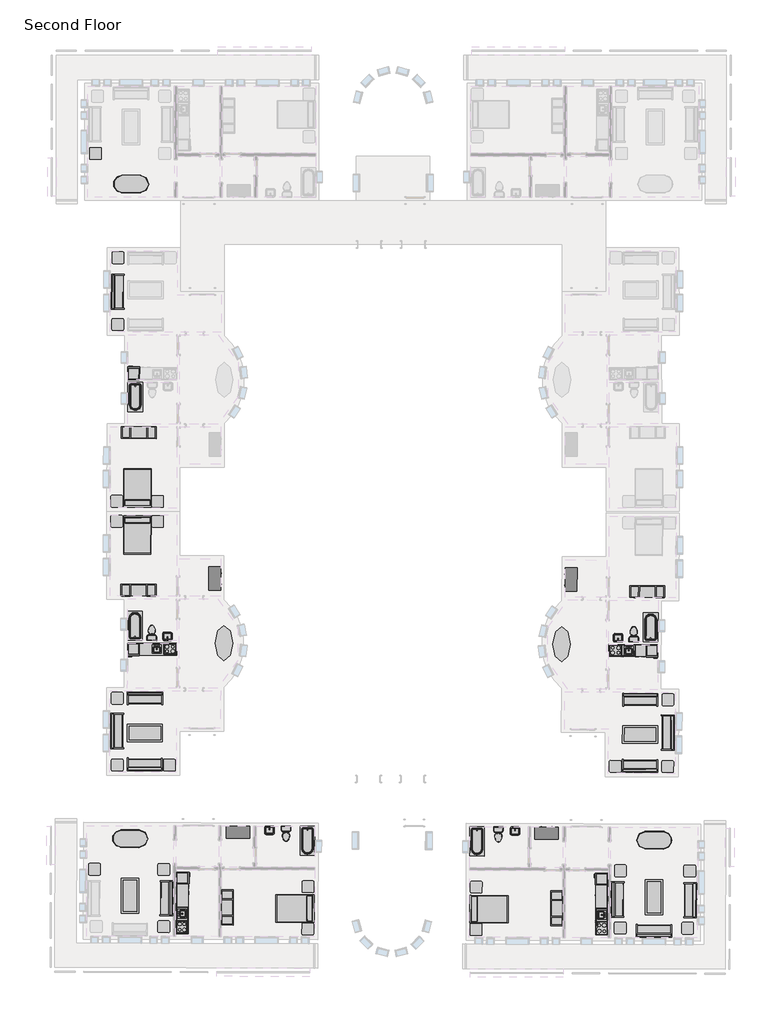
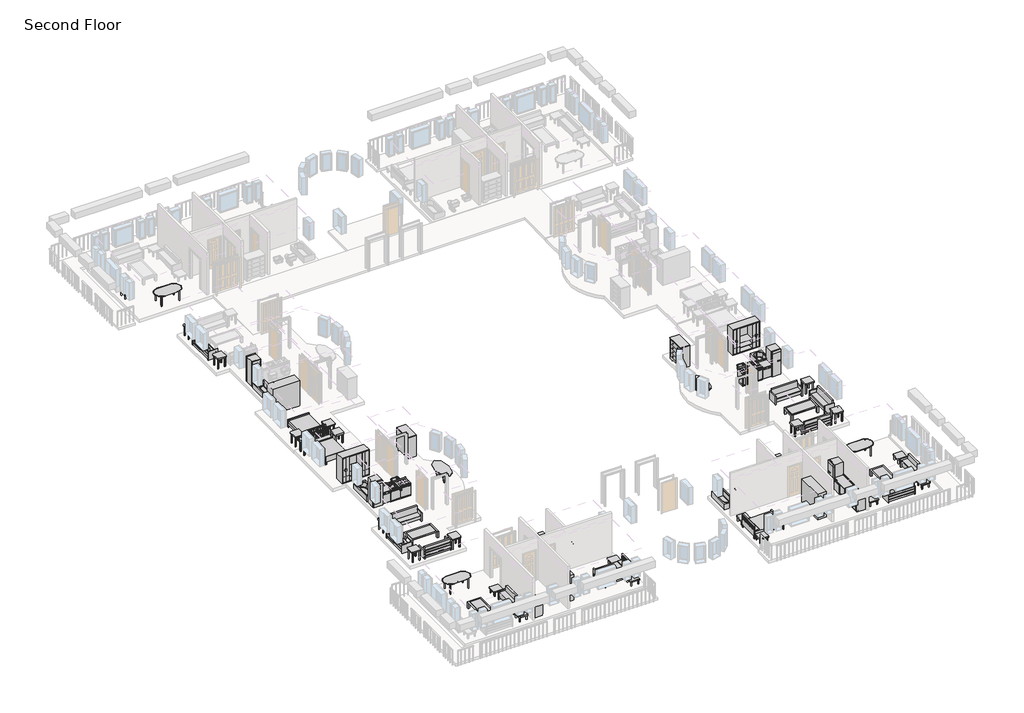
# One storey, part 7 of 8: 61 furniture elements, 17 flow terminals, 17 proxies.
"""IFC4 building model written with IfcOpenShell, lengths in millimetres."""

from ifc_helpers import new_model, si_unit, origin, place, context, project, spatial, transform, mapped, element, save
from components import m_cook_top_4_unit2_0615_x_500mm_249f3515, m_cook_top_4_unit2_0615_x_500mm_c91639ce, m_dishwasher_610_x_610_x_875mm_54ecfc4c, m_dishwasher_610_x_610_x_875mm_75336c20, m_kitchenette_medium_1372mm_e05c6bec, m_kitchenette_medium_1372mm_39f1532f, m_refrigerator_600_x_660mm_a466bf94, m_refrigerator_600_x_660mm_0a899b9c, m_sink_kitchen_island_450_x_450mm_f969cf2d, m_sink_kitchen_island_450_x_450mm_f6c2c534, m_sink_vanity_square_500_x_440mm_1e229b74, m_sink_vanity_square_500_x_440mm_f3cfe680, m_toilet_domestic_3d_m_toilet_domestic_3d_5cb52bd4, m_toilet_domestic_3d_m_toilet_domestic_3d_183bbd19, m_toilet_domestic_3d_m_toilet_domestic_3d_43425dfb, m_toilet_domestic_3d_m_toilet_domestic_3d_5530cc89, m_tub_rectangular_3d_m_tub_rectangular_3d_3a981ad5, m_tub_rectangular_3d_m_tub_rectangular_3d_c2020133, m_bed_shaker_1422_x_1981mm_double_096e7f55, m_bed_shaker_1422_x_1981mm_double_097b173b, m_counter_top_w_sink_hole_600mm_depth_1fb56bb9, m_counter_top_w_sink_hole_600mm_depth_08c4f679, m_counter_top_w_sink_hole_600mm_depth_60928b92, m_counter_top_w_sink_hole_600mm_depth_7e9aa94d, m_dresser_1220_x_1525_x_0610mm_18e1f140, m_dresser_1220_x_1525_x_0610mm_4e5de046, m_entertainment_center_1830_x_1830_x_0610mm_f77a9b93, m_entertainment_center_1830_x_1830_x_0610mm_4f6058a0, m_sofa_1830mm_58d08fc1, m_sofa_1830mm_3da2e71b, m_sofa1_1830mm_f9e8a66b, m_sofa1_1830mm_493d6964, m_table_coffee_0915_x_1830_x_0457mm_134cd960, m_table_coffee_0915_x_1830_x_0457mm_595c1ebd, m_table_dining_oval_0915_x_1830mm_a7cfbe21, m_table_dining_oval_0915_x_1830mm_ad8305c5, m_table_ellipse_1800_x_900mm_fd46d5a5, m_table_ellipse_1800_x_900mm_f7269293, m_table_end_cb6ea12e, m_table_end_aa2764bc, m_table_end_0610_x_0160mm_e0e5b28f, m_table_end_0610_x_0160mm_ccef8dc9

model = new_model("IFC4")

# Units and contexts
model_context = context("Model", 3, world=origin())
ifc_project = project(units=[si_unit("LENGTHUNIT", "METRE", prefix="MILLI")], contexts=[model_context])

# Site, building, storey
site = spatial("IfcSite", under=ifc_project)
building = spatial("IfcBuilding", under=site)
storey = spatial("IfcBuildingStorey", under=building, Name="Second Floor", Elevation=3048.0)

# Proxies
placement = place(None, origin())
m_cook_top_4_unit2_0615_x_500mm_shape = m_cook_top_4_unit2_0615_x_500mm_249f3515(model_context)
element("IfcBuildingElementProxy", 1, Name="M_Cook Top-4 Unit2 : 0615 x 500mm", ObjectType="M_Cook Top-4 Unit2 : 0615 x 500mm", at=placement, inside=storey, context=model_context, shape_type="MappedRepresentation", body=[
    mapped(m_cook_top_4_unit2_0615_x_500mm_shape, transform((-7404.4223325, -26881.3653639, 3048.0), x_axis=(0.9999905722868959, -0.004342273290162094, 0.0), y_axis=(0.004342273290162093, 0.9999905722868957, 0.0), z_axis=(0.0, 0.0, 0.9999999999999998))),
])
element("IfcBuildingElementProxy", 2, Name="M_Cook Top-4 Unit2 : 0615 x 500mm", ObjectType="M_Cook Top-4 Unit2 : 0615 x 500mm", at=placement, inside=storey, context=model_context, shape_type="MappedRepresentation", body=[
    mapped(m_cook_top_4_unit2_0615_x_500mm_shape, transform((-29921.672142, -41252.4695151, 3048.0), x_axis=(0.0028948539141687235, 0.9999958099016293, 0.0), y_axis=(-0.9999958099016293, 0.0028948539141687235, 0.0), z_axis=(0.0, 0.0, 1.0))),
])
m_cook_top_4_unit2_0615_x_500mm_2_shape = m_cook_top_4_unit2_0615_x_500mm_c91639ce(model_context)
element("IfcBuildingElementProxy", 3, Name="M_Cook Top-4 Unit2 : 0615 x 500mm", ObjectType="M_Cook Top-4 Unit2 : 0615 x 500mm", at=placement, inside=storey, context=model_context, shape_type="MappedRepresentation", body=[
    mapped(m_cook_top_4_unit2_0615_x_500mm_2_shape, transform((-8117.5635037, -41315.5894888, 3048.0), x_axis=(0.0028948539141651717, 0.9999958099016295, 0.0), y_axis=(-0.9999958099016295, 0.0028948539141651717, 0.0), z_axis=(0.0, 0.0, 1.0))),
])
element("IfcBuildingElementProxy", 4, Name="M_Cook Top-4 Unit2 : 0615 x 500mm", ObjectType="M_Cook Top-4 Unit2 : 0615 x 500mm", at=placement, inside=storey, context=model_context, shape_type="MappedRepresentation", body=[
    mapped(m_cook_top_4_unit2_0615_x_500mm_2_shape, transform((-30551.2317704, -26814.3584512, 3048.0), x_axis=(-0.9999989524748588, 0.0014474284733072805, 0.0), y_axis=(-0.0014474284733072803, -0.9999989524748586, 0.0), z_axis=(0.0, 0.0, 0.9999999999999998))),
])
m_dishwasher_610_x_610_x_875mm_shape = m_dishwasher_610_x_610_x_875mm_54ecfc4c(model_context)
element("IfcBuildingElementProxy", 5, Name="M_Dishwasher : 610 x 610 x 875mm", ObjectType="M_Dishwasher : 610 x 610 x 875mm", at=placement, inside=storey, context=model_context, shape_type="MappedRepresentation", body=[
    mapped(m_dishwasher_610_x_610_x_875mm_shape, transform((-6490.1062972, -27151.9876901, 3048.0), x_axis=(0.9999905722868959, -0.004342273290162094, 0.0), y_axis=(0.004342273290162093, 0.9999905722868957, 0.0), z_axis=(0.0, 0.0, 0.9999999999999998))),
])
element("IfcBuildingElementProxy", 6, Name="M_Dishwasher : 610 x 610 x 875mm", ObjectType="M_Dishwasher : 610 x 610 x 875mm", at=placement, inside=storey, context=model_context, shape_type="MappedRepresentation", body=[
    mapped(m_dishwasher_610_x_610_x_875mm_shape, transform((-29650.5063255, -39692.7654337, 3048.0), x_axis=(0.0028948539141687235, 0.9999958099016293, 0.0), y_axis=(-0.9999958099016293, 0.0028948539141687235, 0.0), z_axis=(0.0, 0.0, 1.0))),
])
m_dishwasher_610_x_610_x_875mm_2_shape = m_dishwasher_610_x_610_x_875mm_75336c20(model_context)
element("IfcBuildingElementProxy", 7, Name="M_Dishwasher : 610 x 610 x 875mm", ObjectType="M_Dishwasher : 610 x 610 x 875mm", at=placement, inside=storey, context=model_context, shape_type="MappedRepresentation", body=[
    mapped(m_dishwasher_610_x_610_x_875mm_2_shape, transform((-8379.6945822, -39754.3415843, 3048.0), x_axis=(0.0028948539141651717, 0.9999958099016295, 0.0), y_axis=(-0.9999958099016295, 0.0028948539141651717, 0.0), z_axis=(0.0, 0.0, 1.0))),
])
element("IfcBuildingElementProxy", 8, Name="M_Dishwasher : 610 x 610 x 875mm", ObjectType="M_Dishwasher : 610 x 610 x 875mm", at=placement, inside=storey, context=model_context, shape_type="MappedRepresentation", body=[
    mapped(m_dishwasher_610_x_610_x_875mm_2_shape, transform((-31467.0992991, -27079.6826412, 3048.0), x_axis=(-0.9999989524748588, 0.0014474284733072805, 0.0), y_axis=(-0.0014474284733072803, -0.9999989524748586, 0.0), z_axis=(0.0, 0.0, 0.9999999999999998))),
])
m_kitchenette_medium_1372mm_shape = m_kitchenette_medium_1372mm_e05c6bec(model_context)
element("IfcBuildingElementProxy", 9, Name="M_Kitchenette - Medium : 1372mm", ObjectType="M_Kitchenette - Medium : 1372mm", at=placement, inside=storey, context=model_context, shape_type="MappedRepresentation", body=[
    mapped(m_kitchenette_medium_1372mm_shape, transform((-30225.732172, -40927.3256482, 3048.0), x_axis=(0.0028948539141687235, 0.9999958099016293, 0.0), y_axis=(-0.9999958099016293, 0.0028948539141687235, 0.0), z_axis=(0.0, 0.0, 1.0))),
])
m_kitchenette_medium_1372mm_2_shape = m_kitchenette_medium_1372mm_39f1532f(model_context)
element("IfcBuildingElementProxy", 10, Name="M_Kitchenette - Medium : 1372mm", ObjectType="M_Kitchenette - Medium : 1372mm", at=placement, inside=storey, context=model_context, shape_type="MappedRepresentation", body=[
    mapped(m_kitchenette_medium_1372mm_2_shape, transform((-7811.6260897, -40992.2114828, 3048.0), x_axis=(0.0028948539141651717, 0.9999958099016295, 0.0), y_axis=(-0.9999958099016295, 0.0028948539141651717, 0.0), z_axis=(0.0, 0.0, 1.0))),
])
element("IfcBuildingElementProxy", 11, Name="M_Kitchenette - Medium1 : 1372mm 2", ObjectType="M_Kitchenette - Medium1 : 1372mm 2", at=placement, inside=storey, context=model_context, shape_type="MappedRepresentation", body=[
    mapped(m_kitchenette_medium_1372mm_shape, transform((-7078.8387011, -26577.7762748, 3048.0), x_axis=(0.9999905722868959, -0.004342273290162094, 0.0), y_axis=(0.004342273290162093, 0.9999905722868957, 0.0), z_axis=(0.0, 0.0, 0.9999999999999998))),
])
element("IfcBuildingElementProxy", 12, Name="M_Kitchenette - Medium1 : 1372mm 2", ObjectType="M_Kitchenette - Medium1 : 1372mm 2", at=placement, inside=storey, context=model_context, shape_type="MappedRepresentation", body=[
    mapped(m_kitchenette_medium_1372mm_2_shape, transform((-30875.0522602, -26508.8894242, 3048.0), x_axis=(-0.9999989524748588, 0.0014474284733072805, 0.0), y_axis=(-0.0014474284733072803, -0.9999989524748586, 0.0), z_axis=(0.0, 0.0, 0.9999999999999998))),
])
m_refrigerator_600_x_660mm_shape = m_refrigerator_600_x_660mm_a466bf94(model_context)
element("IfcBuildingElementProxy", 13, Name="M_Refrigerator : 600 x 660mm", ObjectType="M_Refrigerator : 600 x 660mm", at=placement, inside=storey, context=model_context, shape_type="MappedRepresentation", body=[
    mapped(m_refrigerator_600_x_660mm_shape, transform((-32487.3566416, -12528.1259936, 3048.0), x_axis=(-0.9999989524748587, 0.0014474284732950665, 0.0), y_axis=(-0.0014474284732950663, -0.9999989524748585, 0.0), z_axis=(0.0, 0.0, 0.9999999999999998))),
])
element("IfcBuildingElementProxy", 14, Name="M_Refrigerator : 600 x 660mm", ObjectType="M_Refrigerator : 600 x 660mm", at=placement, inside=storey, context=model_context, shape_type="MappedRepresentation", body=[
    mapped(m_refrigerator_600_x_660mm_shape, transform((-5447.6014915, -26881.0775022, 3048.0), x_axis=(0.9999905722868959, -0.004342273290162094, 0.0), y_axis=(0.004342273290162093, 0.9999905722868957, 0.0), z_axis=(0.0, 0.0, 0.9999999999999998))),
])
element("IfcBuildingElementProxy", 15, Name="M_Refrigerator : 600 x 660mm", ObjectType="M_Refrigerator : 600 x 660mm", at=placement, inside=storey, context=model_context, shape_type="MappedRepresentation", body=[
    mapped(m_refrigerator_600_x_660mm_shape, transform((-29922.9251807, -38650.6538432, 3048.0), x_axis=(0.0028948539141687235, 0.9999958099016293, 0.0), y_axis=(-0.9999958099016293, 0.0028948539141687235, 0.0), z_axis=(0.0, 0.0, 1.0))),
])
m_refrigerator_600_x_660mm_2_shape = m_refrigerator_600_x_660mm_0a899b9c(model_context)
element("IfcBuildingElementProxy", 16, Name="M_Refrigerator : 600 x 660mm", ObjectType="M_Refrigerator : 600 x 660mm", at=placement, inside=storey, context=model_context, shape_type="MappedRepresentation", body=[
    mapped(m_refrigerator_600_x_660mm_2_shape, transform((-8101.2467965, -38713.824679, 3048.0), x_axis=(0.0028948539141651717, 0.9999958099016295, 0.0), y_axis=(-0.9999958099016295, 0.0028948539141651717, 0.0), z_axis=(0.0, 0.0, 1.0))),
])
element("IfcBuildingElementProxy", 17, Name="M_Refrigerator : 600 x 660mm", ObjectType="M_Refrigerator : 600 x 660mm", at=placement, inside=storey, context=model_context, shape_type="MappedRepresentation", body=[
    mapped(m_refrigerator_600_x_660mm_2_shape, transform((-32508.0181478, -26802.7412209, 3048.0), x_axis=(-0.9999989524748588, 0.0014474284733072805, 0.0), y_axis=(-0.0014474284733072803, -0.9999989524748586, 0.0), z_axis=(0.0, 0.0, 0.9999999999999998))),
])

# Flow terminals
m_sink_kitchen_island_450_x_450mm_shape = m_sink_kitchen_island_450_x_450mm_f969cf2d(model_context)
element("IfcFlowTerminal", 18, ObjectType="M_Sink Kitchen-Island : 450 x 450mm", at=placement, inside=storey, context=model_context, shape_type="MappedRepresentation", body=[
    mapped(m_sink_kitchen_island_450_x_450mm_shape, transform((-6734.1280769, -26886.6214154, 3048.0), x_axis=(0.9999905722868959, -0.004342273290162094, 0.0), y_axis=(0.004342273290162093, 0.9999905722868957, 0.0), z_axis=(0.0, 0.0, 0.9999999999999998))),
])
element("IfcFlowTerminal", 19, ObjectType="M_Sink Kitchen-Island : 450 x 450mm", at=placement, inside=storey, context=model_context, shape_type="MappedRepresentation", body=[
    mapped(m_sink_kitchen_island_450_x_450mm_shape, transform((-29917.3862989, -40582.1683539, 3048.0), x_axis=(0.0028948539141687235, 0.9999958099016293, 0.0), y_axis=(-0.9999958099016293, 0.0028948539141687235, 0.0), z_axis=(0.0, 0.0, 1.0))),
])
m_sink_kitchen_island_450_x_450mm_2_shape = m_sink_kitchen_island_450_x_450mm_f6c2c534(model_context)
element("IfcFlowTerminal", 20, ObjectType="M_Sink Kitchen-Island : 450 x 450mm", at=placement, inside=storey, context=model_context, shape_type="MappedRepresentation", body=[
    mapped(m_sink_kitchen_island_450_x_450mm_2_shape, transform((-8117.9684433, -40645.2747484, 3048.0), x_axis=(0.0028948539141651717, 0.9999958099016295, 0.0), y_axis=(-0.9999958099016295, 0.0028948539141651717, 0.0), z_axis=(0.0, 0.0, 1.0))),
])
element("IfcFlowTerminal", 21, ObjectType="M_Sink Kitchen-Island : 450 x 450mm", at=placement, inside=storey, context=model_context, shape_type="MappedRepresentation", body=[
    mapped(m_sink_kitchen_island_450_x_450mm_2_shape, transform((-31221.5452225, -26815.733623, 3048.0), x_axis=(-0.9999989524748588, 0.0014474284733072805, 0.0), y_axis=(-0.0014474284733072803, -0.9999989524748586, 0.0), z_axis=(0.0, 0.0, 0.9999999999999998))),
])
m_sink_vanity_square_500_x_440mm_shape = m_sink_vanity_square_500_x_440mm_1e229b74(model_context)
element("IfcFlowTerminal", 22, ObjectType="M_Sink Vanity-Square : 500 x 440mm", at=placement, inside=storey, context=model_context, shape_type="MappedRepresentation", body=[
    mapped(m_sink_vanity_square_500_x_440mm_shape, transform((-7255.849628, -26269.4593372, 3048.0), x_axis=(-0.9999905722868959, 0.00434227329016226, 0.0), y_axis=(-0.0043422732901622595, -0.9999905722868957, 0.0), z_axis=(0.0, 0.0, 0.9999999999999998))),
])
element("IfcFlowTerminal", 23, ObjectType="M_Sink Vanity-Square : 500 x 440mm", at=placement, inside=storey, context=model_context, shape_type="MappedRepresentation", body=[
    mapped(m_sink_vanity_square_500_x_440mm_shape, transform((-25398.4470959, -36193.3769715, 3048.0), x_axis=(0.9999958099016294, -0.0028948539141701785, 0.0), y_axis=(0.0028948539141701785, 0.9999958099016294, 0.0), z_axis=(0.0, 0.0, 1.0))),
])
m_sink_vanity_square_500_x_440mm_2_shape = m_sink_vanity_square_500_x_440mm_f3cfe680(model_context)
element("IfcFlowTerminal", 24, ObjectType="M_Sink Vanity-Square : 500 x 440mm", at=placement, inside=storey, context=model_context, shape_type="MappedRepresentation", body=[
    mapped(m_sink_vanity_square_500_x_440mm_2_shape, transform((-12611.4221939, -36230.3936957, 3048.0), x_axis=(-0.9999958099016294, 0.002894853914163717, 0.0), y_axis=(-0.002894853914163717, -0.9999958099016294, 0.0), z_axis=(0.0, 0.0, 1.0))),
])
element("IfcFlowTerminal", 25, ObjectType="M_Sink Vanity-Square : 500 x 440mm", at=placement, inside=storey, context=model_context, shape_type="MappedRepresentation", body=[
    mapped(m_sink_vanity_square_500_x_440mm_2_shape, transform((-30696.2592425, -26201.6024913, 3048.0), x_axis=(0.9999989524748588, -0.001447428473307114, 0.0), y_axis=(0.0014474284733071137, 0.9999989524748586, 0.0), z_axis=(0.0, 0.0, 0.9999999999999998))),
])
m_toilet_domestic_3d_m_toilet_domestic_3d_shape = m_toilet_domestic_3d_m_toilet_domestic_3d_5cb52bd4(model_context)
m_toilet_domestic_3d_m_toilet_domestic_3d_2_shape = m_toilet_domestic_3d_m_toilet_domestic_3d_183bbd19(model_context)
element("IfcFlowTerminal", 26, ObjectType="M_Toilet-Domestic-3D : M_Toilet-Domestic-3D", at=placement, inside=storey, context=model_context, shape_type="MappedRepresentation", body=[
    mapped(m_toilet_domestic_3d_m_toilet_domestic_3d_shape, transform((-24522.1713775, -36508.8406097, 3048.0), x_axis=(0.9999958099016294, -0.00289485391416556, 0.0), y_axis=(0.00289485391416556, 0.9999958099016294, 0.0), z_axis=(0.0, 0.0, 1.0))),
    mapped(m_toilet_domestic_3d_m_toilet_domestic_3d_2_shape, transform((-24522.1713775, -36508.8406097, 3048.0), x_axis=(0.9999958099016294, -0.00289485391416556, 0.0), y_axis=(0.00289485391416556, 0.9999958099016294, 0.0), z_axis=(0.0, 0.0, 1.0))),
])
m_toilet_domestic_3d_m_toilet_domestic_3d_3_shape = m_toilet_domestic_3d_m_toilet_domestic_3d_43425dfb(model_context)
m_toilet_domestic_3d_m_toilet_domestic_3d_4_shape = m_toilet_domestic_3d_m_toilet_domestic_3d_5530cc89(model_context)
element("IfcFlowTerminal", 27, ObjectType="M_Toilet-Domestic-3D : M_Toilet-Domestic-3D", at=placement, inside=storey, context=model_context, shape_type="MappedRepresentation", body=[
    mapped(m_toilet_domestic_3d_m_toilet_domestic_3d_3_shape, transform((-13489.5096603, -36540.7786875, 3048.0), x_axis=(-0.9999958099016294, 0.002894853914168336, 0.0), y_axis=(-0.002894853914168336, -0.9999958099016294, 0.0), z_axis=(0.0, 0.0, 1.0))),
    mapped(m_toilet_domestic_3d_m_toilet_domestic_3d_4_shape, transform((-13489.5096603, -36540.7786875, 3048.0), x_axis=(-0.9999958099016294, 0.002894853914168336, 0.0), y_axis=(-0.002894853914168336, -0.9999958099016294, 0.0), z_axis=(0.0, 0.0, 1.0))),
])
element("IfcFlowTerminal", 28, ObjectType="M_Toilet-Domestic-3D1 : M_Toilet-Domestic-3D", at=placement, inside=storey, context=model_context, shape_type="MappedRepresentation", body=[
    mapped(m_toilet_domestic_3d_m_toilet_domestic_3d_shape, transform((-6457.2243201, -25950.2735511, 3048.0), x_axis=(-0.9999905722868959, 0.00434227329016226, 0.0), y_axis=(-0.0043422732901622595, -0.9999905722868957, 0.0), z_axis=(0.0, 0.0, 0.9999999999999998))),
    mapped(m_toilet_domestic_3d_m_toilet_domestic_3d_2_shape, transform((-6457.2243201, -25950.2735511, 3048.0), x_axis=(-0.9999905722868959, 0.00434227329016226, 0.0), y_axis=(-0.0043422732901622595, -0.9999905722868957, 0.0), z_axis=(0.0, 0.0, 0.9999999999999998))),
])
element("IfcFlowTerminal", 29, ObjectType="M_Toilet-Domestic-3D1 : M_Toilet-Domestic-3D", at=placement, inside=storey, context=model_context, shape_type="MappedRepresentation", body=[
    mapped(m_toilet_domestic_3d_m_toilet_domestic_3d_3_shape, transform((-31493.0231805, -25877.7982671, 3048.0), x_axis=(0.9999989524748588, -0.001447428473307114, 0.0), y_axis=(0.0014474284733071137, 0.9999989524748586, 0.0), z_axis=(0.0, 0.0, 0.9999999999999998))),
    mapped(m_toilet_domestic_3d_m_toilet_domestic_3d_4_shape, transform((-31493.0231805, -25877.7982671, 3048.0), x_axis=(0.9999989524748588, -0.001447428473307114, 0.0), y_axis=(0.0014474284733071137, 0.9999989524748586, 0.0), z_axis=(0.0, 0.0, 0.9999999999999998))),
])
m_tub_rectangular_3d_m_tub_rectangular_3d_shape = m_tub_rectangular_3d_m_tub_rectangular_3d_3a981ad5(model_context)
element("IfcFlowTerminal", 30, ObjectType="M_Tub-Rectangular-3D : M_Tub-Rectangular-3D", at=placement, inside=storey, context=model_context, shape_type="MappedRepresentation", body=[
    mapped(m_tub_rectangular_3d_m_tub_rectangular_3d_shape, transform((-22854.3573612, -37129.57823, 3048.0), x_axis=(-0.0028948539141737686, -0.9999958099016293, 0.0), y_axis=(0.9999958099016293, -0.0028948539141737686, 0.0), z_axis=(0.0, 0.0, 1.0))),
])
element("IfcFlowTerminal", 31, ObjectType="M_Tub-Rectangular-3D : M_Tub-Rectangular-3D", at=placement, inside=storey, context=model_context, shape_type="MappedRepresentation", body=[
    mapped(m_tub_rectangular_3d_m_tub_rectangular_3d_shape, transform((-32926.5841692, -25259.8157014, 3048.0), x_axis=(0.0014474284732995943, 0.9999989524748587, 0.0), y_axis=(-0.9999989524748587, 0.0014474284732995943, 0.0), z_axis=(0.0, 0.0, 1.0))),
])
m_tub_rectangular_3d_m_tub_rectangular_3d_2_shape = m_tub_rectangular_3d_m_tub_rectangular_3d_c2020133(model_context)
element("IfcFlowTerminal", 32, ObjectType="M_Tub-Rectangular-3D : M_Tub-Rectangular-3D", at=placement, inside=storey, context=model_context, shape_type="MappedRepresentation", body=[
    mapped(m_tub_rectangular_3d_m_tub_rectangular_3d_2_shape, transform((-32910.3874532, -14069.8333606, 3048.0), x_axis=(-0.0014474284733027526, -0.9999989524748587, 0.0), y_axis=(0.9999989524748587, -0.0014474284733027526, 0.0), z_axis=(0.0, 0.0, 1.0))),
])
element("IfcFlowTerminal", 33, ObjectType="M_Tub-Rectangular-3D : M_Tub-Rectangular-3D", at=placement, inside=storey, context=model_context, shape_type="MappedRepresentation", body=[
    mapped(m_tub_rectangular_3d_m_tub_rectangular_3d_2_shape, transform((-15160.8895978, -37151.8497886, 3048.0), x_axis=(-0.0028948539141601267, -0.9999958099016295, 0.0), y_axis=(0.9999958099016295, -0.0028948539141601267, 0.0), z_axis=(0.0, 0.0, 1.0))),
])
element("IfcFlowTerminal", 34, ObjectType="M_Tub-Rectangular-3D : M_Tub-Rectangular-3D", at=placement, inside=storey, context=model_context, shape_type="MappedRepresentation", body=[
    mapped(m_tub_rectangular_3d_m_tub_rectangular_3d_2_shape, transform((-5020.1094348, -25340.6012075, 3048.0), x_axis=(0.004342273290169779, 0.9999905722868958, 0.0), y_axis=(-0.9999905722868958, 0.004342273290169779, 0.0), z_axis=(0.0, 0.0, 1.0))),
])

# Furniture
m_bed_shaker_1422_x_1981mm_double_shape = m_bed_shaker_1422_x_1981mm_double_096e7f55(model_context)
element("IfcFurniture", 35, ObjectType="M_Bed-Shaker : 1422 x 1981mm - Double", at=placement, inside=storey, context=model_context, shape_type="MappedRepresentation", body=[
    mapped(m_bed_shaker_1422_x_1981mm_double_shape, transform((-32265.3963493, -19430.7695861, 3048.0), x_axis=(-0.9999989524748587, 0.0014474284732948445, 0.0), y_axis=(-0.0014474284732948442, -0.9999989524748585, 0.0), z_axis=(0.0, 0.0, 0.9999999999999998))),
])
element("IfcFurniture", 36, ObjectType="M_Bed-Shaker : 1422 x 1981mm - Double", at=placement, inside=storey, context=model_context, shape_type="MappedRepresentation", body=[
    mapped(m_bed_shaker_1422_x_1981mm_double_shape, transform((-23068.6004859, -40322.2184362, 3048.0), x_axis=(-0.002894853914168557, -0.9999958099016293, 0.0), y_axis=(0.9999958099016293, -0.002894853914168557, 0.0), z_axis=(0.0, 0.0, 1.0))),
])
m_bed_shaker_1422_x_1981mm_double_2_shape = m_bed_shaker_1422_x_1981mm_double_097b173b(model_context)
element("IfcFurniture", 37, ObjectType="M_Bed-Shaker : 1422 x 1981mm - Double", at=placement, inside=storey, context=model_context, shape_type="MappedRepresentation", body=[
    mapped(m_bed_shaker_1422_x_1981mm_double_2_shape, transform((-14965.1344404, -40345.6768849, 3048.0), x_axis=(-0.0028948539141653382, -0.9999958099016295, 0.0), y_axis=(0.9999958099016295, -0.0028948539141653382, 0.0), z_axis=(0.0, 0.0, 1.0))),
])
element("IfcFurniture", 38, ObjectType="M_Bed-Shaker : 1422 x 1981mm - Double", at=placement, inside=storey, context=model_context, shape_type="MappedRepresentation", body=[
    mapped(m_bed_shaker_1422_x_1981mm_double_2_shape, transform((-32266.0766407, -19900.7690938, 3048.0), x_axis=(-0.9999989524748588, 0.0014474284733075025, 0.0), y_axis=(-0.0014474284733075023, -0.9999989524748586, 0.0), z_axis=(0.0, 0.0, 0.9999999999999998))),
])
m_counter_top_w_sink_hole_600mm_depth_shape = m_counter_top_w_sink_hole_600mm_depth_1fb56bb9(model_context)
element("IfcFurniture", 39, ObjectType="M_Counter Top w Sink Hole : 600mm Depth", at=placement, inside=storey, context=model_context, shape_type="MappedRepresentation", body=[
    mapped(m_counter_top_w_sink_hole_600mm_depth_shape, transform((-30224.1886359, -40394.1278824, 3048.0), x_axis=(0.0028948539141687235, 0.9999958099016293, 0.0), y_axis=(-0.9999958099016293, 0.0028948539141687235, 0.0), z_axis=(0.0, 0.0, 1.0))),
])
m_counter_top_w_sink_hole_600mm_depth_2_shape = m_counter_top_w_sink_hole_600mm_depth_08c4f679(model_context)
element("IfcFurniture", 40, ObjectType="M_Counter Top w Sink Hole : 600mm Depth", at=placement, inside=storey, context=model_context, shape_type="MappedRepresentation", body=[
    mapped(m_counter_top_w_sink_hole_600mm_depth_2_shape, transform((-6545.643728, -26580.0915749, 3048.0), x_axis=(0.9999905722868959, -0.004342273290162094, 0.0), y_axis=(0.004342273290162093, 0.9999905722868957, 0.0), z_axis=(0.0, 0.0, 0.9999999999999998))),
])
m_counter_top_w_sink_hole_600mm_depth_3_shape = m_counter_top_w_sink_hole_600mm_depth_60928b92(model_context)
element("IfcFurniture", 41, ObjectType="M_Counter Top w Sink Hole : 600mm Depth", at=placement, inside=storey, context=model_context, shape_type="MappedRepresentation", body=[
    mapped(m_counter_top_w_sink_hole_600mm_depth_3_shape, transform((-31408.2517016, -26508.1176554, 3048.0), x_axis=(-0.9999989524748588, 0.0014474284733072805, 0.0), y_axis=(-0.0014474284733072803, -0.9999989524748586, 0.0), z_axis=(0.0, 0.0, 0.9999999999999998))),
])
m_counter_top_w_sink_hole_600mm_depth_4_shape = m_counter_top_w_sink_hole_600mm_depth_7e9aa94d(model_context)
element("IfcFurniture", 42, ObjectType="M_Counter Top w Sink Hole : 600mm Depth", at=placement, inside=storey, context=model_context, shape_type="MappedRepresentation", body=[
    mapped(m_counter_top_w_sink_hole_600mm_depth_4_shape, transform((-7810.0825536, -40459.013717, 3048.0), x_axis=(0.0028948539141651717, 0.9999958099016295, 0.0), y_axis=(-0.9999958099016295, 0.0028948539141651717, 0.0), z_axis=(0.0, 0.0, 1.0))),
])
m_dresser_1220_x_1525_x_0610mm_shape = m_dresser_1220_x_1525_x_0610mm_18e1f140(model_context)
element("IfcFurniture", 43, ObjectType="M_Dresser : 1220 x 1525 x 0610mm", at=placement, inside=storey, context=model_context, shape_type="MappedRepresentation", body=[
    mapped(m_dresser_1220_x_1525_x_0610mm_shape, transform((-9350.5209907, -23482.9760924, 3048.0), x_axis=(-0.004342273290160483, -0.9999905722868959, 0.0), y_axis=(0.9999905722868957, -0.004342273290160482, 0.0), z_axis=(0.0, 0.0, 0.9999999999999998))),
])
element("IfcFurniture", 44, ObjectType="M_Dresser : 1220 x 1525 x 0610mm", at=placement, inside=storey, context=model_context, shape_type="MappedRepresentation", body=[
    mapped(m_dresser_1220_x_1525_x_0610mm_shape, transform((-27295.820683, -36698.2790207, 3048.0), x_axis=(-0.9999958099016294, 0.0028948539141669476, 0.0), y_axis=(-0.0028948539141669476, -0.9999958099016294, 0.0), z_axis=(0.0, 0.0, 1.0))),
])
m_dresser_1220_x_1525_x_0610mm_2_shape = m_dresser_1220_x_1525_x_0610mm_4e5de046(model_context)
element("IfcFurniture", 45, ObjectType="M_Dresser : 1220 x 1525 x 0610mm", at=placement, inside=storey, context=model_context, shape_type="MappedRepresentation", body=[
    mapped(m_dresser_1220_x_1525_x_0610mm_2_shape, transform((-10717.0036305, -36746.2724752, 3048.0), x_axis=(0.9999958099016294, -0.002894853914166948, 0.0), y_axis=(0.002894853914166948, 0.9999958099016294, 0.0), z_axis=(0.0, 0.0, 1.0))),
])
element("IfcFurniture", 46, ObjectType="M_Dresser : 1220 x 1525 x 0610mm", at=placement, inside=storey, context=model_context, shape_type="MappedRepresentation", body=[
    mapped(m_dresser_1220_x_1525_x_0610mm_2_shape, transform((-28585.490131, -23427.2934334, 3048.0), x_axis=(-0.0014474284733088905, -0.9999989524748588, 0.0), y_axis=(0.9999989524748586, -0.0014474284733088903, 0.0), z_axis=(0.0, 0.0, 0.9999999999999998))),
])
m_entertainment_center_1830_x_1830_x_0610mm_shape = m_entertainment_center_1830_x_1830_x_0610mm_f77a9b93(model_context)
element("IfcFurniture", 47, ObjectType="M_Entertainment center : 1830 x 1830 x 0610mm", at=placement, inside=storey, context=model_context, shape_type="MappedRepresentation", body=[
    mapped(m_entertainment_center_1830_x_1830_x_0610mm_shape, transform((-32173.151944, -15980.2994888, 3048.0), x_axis=(-0.9999989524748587, 0.0014474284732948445, 0.0), y_axis=(-0.0014474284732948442, -0.9999989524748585, 0.0), z_axis=(0.0, 0.0, 0.9999999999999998))),
])
element("IfcFurniture", 48, ObjectType="M_Entertainment center : 1830 x 1830 x 0610mm", at=placement, inside=storey, context=model_context, shape_type="MappedRepresentation", body=[
    mapped(m_entertainment_center_1830_x_1830_x_0610mm_shape, transform((-5751.8113346, -23428.0088952, 3048.0), x_axis=(0.9999905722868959, -0.004342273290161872, 0.0), y_axis=(0.004342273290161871, 0.9999905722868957, 0.0), z_axis=(0.0, 0.0, 0.9999999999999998))),
])
element("IfcFurniture", 49, ObjectType="M_Entertainment center : 1830 x 1830 x 0610mm", at=placement, inside=storey, context=model_context, shape_type="MappedRepresentation", body=[
    mapped(m_entertainment_center_1830_x_1830_x_0610mm_shape, transform((-27155.4724705, -40237.537184, 3048.0), x_axis=(-0.0028948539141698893, -0.9999958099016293, 0.0), y_axis=(0.9999958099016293, -0.0028948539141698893, 0.0), z_axis=(0.0, 0.0, 1.0))),
])
m_entertainment_center_1830_x_1830_x_0610mm_2_shape = m_entertainment_center_1830_x_1830_x_0610mm_4f6058a0(model_context)
element("IfcFurniture", 50, ObjectType="M_Entertainment center : 1830 x 1830 x 0610mm", at=placement, inside=storey, context=model_context, shape_type="MappedRepresentation", body=[
    mapped(m_entertainment_center_1830_x_1830_x_0610mm_2_shape, transform((-10877.8406756, -40284.6587476, 3048.0), x_axis=(-0.002894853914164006, -0.9999958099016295, 0.0), y_axis=(0.9999958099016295, -0.002894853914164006, 0.0), z_axis=(0.0, 0.0, 1.0))),
])
element("IfcFurniture", 51, ObjectType="M_Entertainment center : 1830 x 1830 x 0610mm", at=placement, inside=storey, context=model_context, shape_type="MappedRepresentation", body=[
    mapped(m_entertainment_center_1830_x_1830_x_0610mm_2_shape, transform((-32183.8212288, -23351.4917673, 3048.0), x_axis=(-0.9999989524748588, 0.0014474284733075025, 0.0), y_axis=(-0.0014474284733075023, -0.9999989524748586, 0.0), z_axis=(0.0, 0.0, 0.9999999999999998))),
])
m_sofa_1830mm_shape = m_sofa_1830mm_58d08fc1(model_context)
element("IfcFurniture", 52, ObjectType="M_Sofa : 1830mm", at=placement, inside=storey, context=model_context, shape_type="MappedRepresentation", body=[
    mapped(m_sofa_1830mm_shape, transform((-30883.7111212, -39691.3716975, 3048.0), x_axis=(-0.002894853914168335, -0.9999958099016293, 0.0), y_axis=(0.9999958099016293, -0.002894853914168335, 0.0), z_axis=(0.0, 0.0, 1.0))),
])
m_sofa_1830mm_2_shape = m_sofa_1830mm_3da2e71b(model_context)
element("IfcFurniture", 53, ObjectType="M_Sofa : 1830mm", at=placement, inside=storey, context=model_context, shape_type="MappedRepresentation", body=[
    mapped(m_sofa_1830mm_2_shape, transform((-5476.2542745, -41309.1457454, 3048.0), x_axis=(0.9999958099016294, -0.002894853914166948, 0.0), y_axis=(0.002894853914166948, 0.9999958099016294, 0.0), z_axis=(0.0, 0.0, 1.0))),
])
element("IfcFurniture", 54, ObjectType="M_Sofa : 1830mm", at=placement, inside=storey, context=model_context, shape_type="MappedRepresentation", body=[
    mapped(m_sofa_1830mm_2_shape, transform((-3675.7206344, -39931.6563496, 3048.0), x_axis=(0.002894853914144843, 0.9999958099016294, 0.0), y_axis=(-0.9999958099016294, 0.002894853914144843, 0.0), z_axis=(0.0, 0.0, 1.0))),
])
element("IfcFurniture", 55, ObjectType="M_Sofa : 1830mm", at=placement, inside=storey, context=model_context, shape_type="MappedRepresentation", body=[
    mapped(m_sofa_1830mm_2_shape, transform((-7146.5023862, -39760.087737, 3048.0), x_axis=(-0.0028948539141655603, -0.9999958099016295, 0.0), y_axis=(0.9999958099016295, -0.0028948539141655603, 0.0), z_axis=(0.0, 0.0, 1.0))),
])
m_sofa1_1830mm_shape = m_sofa1_1830mm_f9e8a66b(model_context)
element("IfcFurniture", 56, ObjectType="M_Sofa1 : 1830mm", at=placement, inside=storey, context=model_context, shape_type="MappedRepresentation", body=[
    mapped(m_sofa1_1830mm_shape, transform((-33110.3167447, -8323.9054813, 3048.0), x_axis=(0.0014474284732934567, 0.9999989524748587, 0.0), y_axis=(-0.9999989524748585, 0.0014474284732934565, 0.0), z_axis=(0.0, 0.0, 0.9999999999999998))),
])
element("IfcFurniture", 57, ObjectType="M_Sofa1 : 1830mm", at=placement, inside=storey, context=model_context, shape_type="MappedRepresentation", body=[
    mapped(m_sofa1_1830mm_shape, transform((-4836.8146029, -31087.0837768, 3048.0), x_axis=(-0.004342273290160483, -0.9999905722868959, 0.0), y_axis=(0.9999905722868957, -0.004342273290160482, 0.0), z_axis=(0.0, 0.0, 0.9999999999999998))),
])
element("IfcFurniture", 58, ObjectType="M_Sofa1 : 1830mm", at=placement, inside=storey, context=model_context, shape_type="MappedRepresentation", body=[
    mapped(m_sofa1_1830mm_shape, transform((-6189.5797831, -29598.4702567, 3048.0), x_axis=(0.9999905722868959, -0.004342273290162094, 0.0), y_axis=(0.004342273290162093, 0.9999905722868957, 0.0), z_axis=(0.0, 0.0, 0.9999999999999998))),
])
element("IfcFurniture", 59, ObjectType="M_Sofa1 : 1830mm", at=placement, inside=storey, context=model_context, shape_type="MappedRepresentation", body=[
    mapped(m_sofa1_1830mm_shape, transform((-6062.461585, -32735.9936216, 3048.0), x_axis=(-0.9999905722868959, 0.00434227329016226, 0.0), y_axis=(-0.0043422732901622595, -0.9999905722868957, 0.0), z_axis=(0.0, 0.0, 0.9999999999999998))),
])
m_sofa1_1830mm_2_shape = m_sofa1_1830mm_493d6964(model_context)
element("IfcFurniture", 60, ObjectType="M_Sofa1 : 1830mm", at=placement, inside=storey, context=model_context, shape_type="MappedRepresentation", body=[
    mapped(m_sofa1_1830mm_2_shape, transform((-33143.1462448, -31005.1407385, 3048.0), x_axis=(-0.0014474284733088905, -0.9999989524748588, 0.0), y_axis=(0.9999989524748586, -0.0014474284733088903, 0.0), z_axis=(0.0, 0.0, 0.9999999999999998))),
])
element("IfcFurniture", 61, ObjectType="M_Sofa1 : 1830mm", at=placement, inside=storey, context=model_context, shape_type="MappedRepresentation", body=[
    mapped(m_sofa1_1830mm_2_shape, transform((-31781.7851362, -29524.3842504, 3048.0), x_axis=(-0.9999989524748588, 0.0014474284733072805, 0.0), y_axis=(-0.0014474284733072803, -0.9999989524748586, 0.0), z_axis=(0.0, 0.0, 0.9999999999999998))),
])
element("IfcFurniture", 62, ObjectType="M_Sofa1 : 1830mm", at=placement, inside=storey, context=model_context, shape_type="MappedRepresentation", body=[
    mapped(m_sofa1_1830mm_2_shape, transform((-31927.0664712, -32661.1190552, 3048.0), x_axis=(0.9999989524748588, -0.001447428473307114, 0.0), y_axis=(0.0014474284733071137, 0.9999989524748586, 0.0), z_axis=(0.0, 0.0, 0.9999999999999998))),
])
m_table_coffee_0915_x_1830_x_0457mm_shape = m_table_coffee_0915_x_1830_x_0457mm_134cd960(model_context)
element("IfcFurniture", 63, ObjectType="M_Table-Coffee : 0915 x 1830 x 0457mm", at=placement, inside=storey, context=model_context, shape_type="MappedRepresentation", body=[
    mapped(m_table_coffee_0915_x_1830_x_0457mm_shape, transform((-6145.0704326, -31347.7369995, 3048.0), x_axis=(0.9999905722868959, -0.004342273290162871, 0.0), y_axis=(0.00434227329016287, 0.9999905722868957, 0.0), z_axis=(0.0, 0.0, 0.9999999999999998))),
])
element("IfcFurniture", 64, ObjectType="M_Table-Coffee : 0915 x 1830 x 0457mm", at=placement, inside=storey, context=model_context, shape_type="MappedRepresentation", body=[
    mapped(m_table_coffee_0915_x_1830_x_0457mm_shape, transform((-32723.8138427, -39618.1492872, 3048.0), x_axis=(-0.0028948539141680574, -0.9999958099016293, 0.0), y_axis=(0.9999958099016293, -0.0028948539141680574, 0.0), z_axis=(0.0, 0.0, 1.0))),
])
m_table_coffee_0915_x_1830_x_0457mm_2_shape = m_table_coffee_0915_x_1830_x_0457mm_595c1ebd(model_context)
element("IfcFurniture", 65, ObjectType="M_Table-Coffee : 0915 x 1830 x 0457mm", at=placement, inside=storey, context=model_context, shape_type="MappedRepresentation", body=[
    mapped(m_table_coffee_0915_x_1830_x_0457mm_2_shape, transform((-5306.0065709, -39697.5201665, 3048.0), x_axis=(-0.002894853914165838, -0.9999958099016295, 0.0), y_axis=(0.9999958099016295, -0.002894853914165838, 0.0), z_axis=(0.0, 0.0, 1.0))),
])
element("IfcFurniture", 66, ObjectType="M_Table-Coffee : 0915 x 1830 x 0457mm", at=placement, inside=storey, context=model_context, shape_type="MappedRepresentation", body=[
    mapped(m_table_coffee_0915_x_1830_x_0457mm_2_shape, transform((-31836.4214416, -31273.3639798, 3048.0), x_axis=(-0.9999989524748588, 0.0014474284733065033, 0.0), y_axis=(-0.001447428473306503, -0.9999989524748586, 0.0), z_axis=(0.0, 0.0, 0.9999999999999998))),
])
m_table_dining_oval_0915_x_1830mm_shape = m_table_dining_oval_0915_x_1830mm_a7cfbe21(model_context)
element("IfcFurniture", 67, ObjectType="M_Table-Dining Oval : 0915 x 1830mm", at=placement, inside=storey, context=model_context, shape_type="MappedRepresentation", body=[
    mapped(m_table_dining_oval_0915_x_1830mm_shape, transform((-33022.9144028, -37024.136693, 3048.0), x_axis=(-0.9999958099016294, 0.0028948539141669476, 0.0), y_axis=(-0.0028948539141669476, -0.9999958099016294, 0.0), z_axis=(0.0, 0.0, 1.0))),
])
m_table_dining_oval_0915_x_1830mm_2_shape = m_table_dining_oval_0915_x_1830mm_ad8305c5(model_context)
element("IfcFurniture", 68, ObjectType="M_Table-Dining Oval : 0915 x 1830mm", at=placement, inside=storey, context=model_context, shape_type="MappedRepresentation", body=[
    mapped(m_table_dining_oval_0915_x_1830mm_2_shape, transform((-32972.6612925, -2305.2828007, 3048.0), x_axis=(-1.0, 0.0, 0.0), y_axis=(0.0, -1.0, 0.0), z_axis=(0.0, 0.0, 1.0))),
])
element("IfcFurniture", 69, ObjectType="M_Table-Dining Oval : 0915 x 1830mm", at=placement, inside=storey, context=model_context, shape_type="MappedRepresentation", body=[
    mapped(m_table_dining_oval_0915_x_1830mm_2_shape, transform((-4991.8925118, -37105.2827464, 3048.0), x_axis=(0.9999958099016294, -0.002894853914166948, 0.0), y_axis=(0.002894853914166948, 0.9999958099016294, 0.0), z_axis=(0.0, 0.0, 1.0))),
])
m_table_ellipse_1800_x_900mm_shape = m_table_ellipse_1800_x_900mm_fd46d5a5(model_context)
element("IfcFurniture", 70, ObjectType="M_Table-Ellipse : 1800 x 900mm", at=placement, inside=storey, context=model_context, shape_type="MappedRepresentation", body=[
    mapped(m_table_ellipse_1800_x_900mm_shape, transform((-10207.0715038, -26564.192505, 3048.0), x_axis=(-0.004342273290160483, -0.9999905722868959, 0.0), y_axis=(0.9999905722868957, -0.004342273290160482, 0.0), z_axis=(0.0, 0.0, 0.9999999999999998))),
])
m_table_ellipse_1800_x_900mm_2_shape = m_table_ellipse_1800_x_900mm_f7269293(model_context)
element("IfcFurniture", 71, ObjectType="M_Table-Ellipse : 1800 x 900mm", at=placement, inside=storey, context=model_context, shape_type="MappedRepresentation", body=[
    mapped(m_table_ellipse_1800_x_900mm_2_shape, transform((-27746.793242, -26513.4173601, 3048.0), x_axis=(-0.0014474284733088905, -0.9999989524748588, 0.0), y_axis=(0.9999989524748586, -0.0014474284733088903, 0.0), z_axis=(0.0, 0.0, 0.9999999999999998))),
])
m_table_end_shape = m_table_end_cb6ea12e(model_context)
element("IfcFurniture", 72, ObjectType="M_Table-End : 0610 x 0160mm altered height", at=placement, inside=storey, context=model_context, shape_type="MappedRepresentation", body=[
    mapped(m_table_end_shape, transform((-30569.1071738, -41085.2587623, 3048.0), x_axis=(-0.9999958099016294, 0.0028948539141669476, 0.0), y_axis=(-0.0028948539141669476, -0.9999958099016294, 0.0), z_axis=(0.0, 0.0, 1.0))),
])
element("IfcFurniture", 73, ObjectType="M_Table-End : 0610 x 0160mm altered height", at=placement, inside=storey, context=model_context, shape_type="MappedRepresentation", body=[
    mapped(m_table_end_shape, transform((-34160.490031, -38103.349739, 3048.0), x_axis=(-0.9999958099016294, 0.0028948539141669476, 0.0), y_axis=(-0.0028948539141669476, -0.9999958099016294, 0.0), z_axis=(0.0, 0.0, 1.0))),
])
element("IfcFurniture", 74, ObjectType="M_Table-End : 0610 x 0160mm altered height", at=placement, inside=storey, context=model_context, shape_type="MappedRepresentation", body=[
    mapped(m_table_end_shape, transform((-30560.5051154, -38113.7712131, 3048.0), x_axis=(-0.9999958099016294, 0.0028948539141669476, 0.0), y_axis=(-0.0028948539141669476, -0.9999958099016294, 0.0), z_axis=(0.0, 0.0, 1.0))),
])
element("IfcFurniture", 75, ObjectType="M_Table-End : 0610 x 0160mm altered height", at=placement, inside=storey, context=model_context, shape_type="MappedRepresentation", body=[
    mapped(m_table_end_shape, transform((-23071.0593728, -39006.955807, 3048.0), x_axis=(-0.9999958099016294, 0.0028948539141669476, 0.0), y_axis=(-0.0028948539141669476, -0.9999958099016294, 0.0), z_axis=(0.0, 0.0, 1.0))),
])
element("IfcFurniture", 76, ObjectType="M_Table-End : 0610 x 0160mm altered height", at=placement, inside=storey, context=model_context, shape_type="MappedRepresentation", body=[
    mapped(m_table_end_shape, transform((-23077.4280514, -41206.9465888, 3048.0), x_axis=(-0.9999958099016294, 0.0028948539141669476, 0.0), y_axis=(-0.0028948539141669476, -0.9999958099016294, 0.0), z_axis=(0.0, 0.0, 1.0))),
])
m_table_end_2_shape = m_table_end_aa2764bc(model_context)
element("IfcFurniture", 77, ObjectType="M_Table-End : 0610 x 0160mm altered height", at=placement, inside=storey, context=model_context, shape_type="MappedRepresentation", body=[
    mapped(m_table_end_2_shape, transform((-34107.10799, -1222.7811614, 3048.0), x_axis=(-1.0, 0.0, 0.0), y_axis=(0.0, -1.0, 0.0), z_axis=(0.0, 0.0, 1.0))),
])
element("IfcFurniture", 78, ObjectType="M_Table-End : 0610 x 0160mm altered height", at=placement, inside=storey, context=model_context, shape_type="MappedRepresentation", body=[
    mapped(m_table_end_2_shape, transform((-7469.1712258, -41152.1299825, 3048.0), x_axis=(0.9999958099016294, -0.002894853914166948, 0.0), y_axis=(0.002894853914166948, 0.9999958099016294, 0.0), z_axis=(0.0, 0.0, 1.0))),
])
element("IfcFurniture", 79, ObjectType="M_Table-End : 0610 x 0160mm altered height", at=placement, inside=storey, context=model_context, shape_type="MappedRepresentation", body=[
    mapped(m_table_end_2_shape, transform((-3969.1858911, -41162.2619711, 3048.0), x_axis=(0.9999958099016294, -0.002894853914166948, 0.0), y_axis=(0.002894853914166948, 0.9999958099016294, 0.0), z_axis=(0.0, 0.0, 1.0))),
])
element("IfcFurniture", 80, ObjectType="M_Table-End : 0610 x 0160mm altered height", at=placement, inside=storey, context=model_context, shape_type="MappedRepresentation", body=[
    mapped(m_table_end_2_shape, transform((-3860.5842517, -38191.0639074, 3048.0), x_axis=(0.9999958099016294, -0.002894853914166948, 0.0), y_axis=(0.002894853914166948, 0.9999958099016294, 0.0), z_axis=(0.0, 0.0, 1.0))),
])
element("IfcFurniture", 81, ObjectType="M_Table-End : 0610 x 0160mm altered height", at=placement, inside=storey, context=model_context, shape_type="MappedRepresentation", body=[
    mapped(m_table_end_2_shape, transform((-7460.5691674, -38180.6424333, 3048.0), x_axis=(0.9999958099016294, -0.002894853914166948, 0.0), y_axis=(0.002894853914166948, 0.9999958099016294, 0.0), z_axis=(0.0, 0.0, 1.0))),
])
element("IfcFurniture", 82, ObjectType="M_Table-End : 0610 x 0160mm altered height", at=placement, inside=storey, context=model_context, shape_type="MappedRepresentation", body=[
    mapped(m_table_end_2_shape, transform((-14955.0606403, -39030.4505361, 3048.0), x_axis=(0.9999958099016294, -0.002894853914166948, 0.0), y_axis=(0.002894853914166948, 0.9999958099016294, 0.0), z_axis=(0.0, 0.0, 1.0))),
])
element("IfcFurniture", 83, ObjectType="M_Table-End : 0610 x 0160mm altered height", at=placement, inside=storey, context=model_context, shape_type="MappedRepresentation", body=[
    mapped(m_table_end_2_shape, transform((-14961.4293189, -41230.4413179, 3048.0), x_axis=(0.9999958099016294, -0.002894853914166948, 0.0), y_axis=(0.002894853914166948, 0.9999958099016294, 0.0), z_axis=(0.0, 0.0, 1.0))),
])
m_table_end_0610_x_0160mm_shape = m_table_end_0610_x_0160mm_e0e5b28f(model_context)
element("IfcFurniture", 84, ObjectType="M_Table-End : 0610 x 0160mm", at=placement, inside=storey, context=model_context, shape_type="MappedRepresentation", body=[
    mapped(m_table_end_0610_x_0160mm_shape, transform((-33160.1808503, -19453.9581041, 3048.0), x_axis=(0.0014474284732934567, 0.9999989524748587, 0.0), y_axis=(-0.9999989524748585, 0.0014474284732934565, 0.0), z_axis=(0.0, 0.0, 0.9999999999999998))),
])
element("IfcFurniture", 85, ObjectType="M_Table-End : 0610 x 0160mm", at=placement, inside=storey, context=model_context, shape_type="MappedRepresentation", body=[
    mapped(m_table_end_0610_x_0160mm_shape, transform((-31040.1830711, -19457.0266525, 3048.0), x_axis=(0.0014474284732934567, 0.9999989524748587, 0.0), y_axis=(-0.9999989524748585, 0.0014474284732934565, 0.0), z_axis=(0.0, 0.0, 0.9999999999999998))),
])
element("IfcFurniture", 86, ObjectType="M_Table-End : 0610 x 0160mm", at=placement, inside=storey, context=model_context, shape_type="MappedRepresentation", body=[
    mapped(m_table_end_0610_x_0160mm_shape, transform((-33106.8837287, -10267.2756246, 3048.0), x_axis=(0.0014474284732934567, 0.9999989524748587, 0.0), y_axis=(-0.9999989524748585, 0.0014474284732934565, 0.0), z_axis=(0.0, 0.0, 0.9999999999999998))),
])
element("IfcFurniture", 87, ObjectType="M_Table-End : 0610 x 0160mm", at=placement, inside=storey, context=model_context, shape_type="MappedRepresentation", body=[
    mapped(m_table_end_0610_x_0160mm_shape, transform((-33101.8611519, -6797.2792595, 3048.0), x_axis=(0.0014474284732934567, 0.9999989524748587, 0.0), y_axis=(-0.9999989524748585, 0.0014474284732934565, 0.0), z_axis=(0.0, 0.0, 0.9999999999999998))),
])
element("IfcFurniture", 88, ObjectType="M_Table-End : 0610 x 0160mm", at=placement, inside=storey, context=model_context, shape_type="MappedRepresentation", body=[
    mapped(m_table_end_0610_x_0160mm_shape, transform((-4834.6218318, -29143.7118384, 3048.0), x_axis=(-0.004342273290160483, -0.9999905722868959, 0.0), y_axis=(0.9999905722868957, -0.004342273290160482, 0.0), z_axis=(0.0, 0.0, 0.9999999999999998))),
])
element("IfcFurniture", 89, ObjectType="M_Table-End : 0610 x 0160mm", at=placement, inside=storey, context=model_context, shape_type="MappedRepresentation", body=[
    mapped(m_table_end_0610_x_0160mm_shape, transform((-4849.6895201, -32613.6791242, 3048.0), x_axis=(-0.004342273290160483, -0.9999905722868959, 0.0), y_axis=(0.9999905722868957, -0.004342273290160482, 0.0), z_axis=(0.0, 0.0, 0.9999999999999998))),
])
element("IfcFurniture", 90, ObjectType="M_Table-End : 0610 x 0160mm", at=placement, inside=storey, context=model_context, shape_type="MappedRepresentation", body=[
    mapped(m_table_end_0610_x_0160mm_shape, transform((-7569.6638767, -32601.8681409, 3048.0), x_axis=(-0.004342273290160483, -0.9999905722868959, 0.0), y_axis=(0.9999905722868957, -0.004342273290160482, 0.0), z_axis=(0.0, 0.0, 0.9999999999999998))),
])
m_table_end_0610_x_0160mm_2_shape = m_table_end_0610_x_0160mm_ccef8dc9(model_context)
element("IfcFurniture", 91, ObjectType="M_Table-End : 0610 x 0160mm", at=placement, inside=storey, context=model_context, shape_type="MappedRepresentation", body=[
    mapped(m_table_end_0610_x_0160mm_2_shape, transform((-33160.7902651, -19874.9904025, 3048.0), x_axis=(-0.0014474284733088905, -0.9999989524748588, 0.0), y_axis=(0.9999989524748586, -0.0014474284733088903, 0.0), z_axis=(0.0, 0.0, 0.9999999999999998))),
])
element("IfcFurniture", 92, ObjectType="M_Table-End : 0610 x 0160mm", at=placement, inside=storey, context=model_context, shape_type="MappedRepresentation", body=[
    mapped(m_table_end_0610_x_0160mm_2_shape, transform((-31040.7924859, -19878.0589508, 3048.0), x_axis=(-0.0014474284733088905, -0.9999989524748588, 0.0), y_axis=(0.9999989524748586, -0.0014474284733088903, 0.0), z_axis=(0.0, 0.0, 0.9999999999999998))),
])
element("IfcFurniture", 93, ObjectType="M_Table-End : 0610 x 0160mm", at=placement, inside=storey, context=model_context, shape_type="MappedRepresentation", body=[
    mapped(m_table_end_0610_x_0160mm_2_shape, transform((-33134.0874705, -29061.7886763, 3048.0), x_axis=(-0.0014474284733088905, -0.9999989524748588, 0.0), y_axis=(0.9999989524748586, -0.0014474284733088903, 0.0), z_axis=(0.0, 0.0, 0.9999999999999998))),
])
element("IfcFurniture", 94, ObjectType="M_Table-End : 0610 x 0160mm", at=placement, inside=storey, context=model_context, shape_type="MappedRepresentation", body=[
    mapped(m_table_end_0610_x_0160mm_2_shape, transform((-33139.1100473, -32531.7850414, 3048.0), x_axis=(-0.0014474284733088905, -0.9999989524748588, 0.0), y_axis=(0.9999989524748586, -0.0014474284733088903, 0.0), z_axis=(0.0, 0.0, 0.9999999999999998))),
])
element("IfcFurniture", 95, ObjectType="M_Table-End : 0610 x 0160mm", at=placement, inside=storey, context=model_context, shape_type="MappedRepresentation", body=[
    mapped(m_table_end_0610_x_0160mm_2_shape, transform((-30419.1128966, -32535.7220468, 3048.0), x_axis=(-0.0014474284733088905, -0.9999989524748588, 0.0), y_axis=(0.9999989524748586, -0.0014474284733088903, 0.0), z_axis=(0.0, 0.0, 0.9999999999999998))),
])

save(model, "model.ifc")
